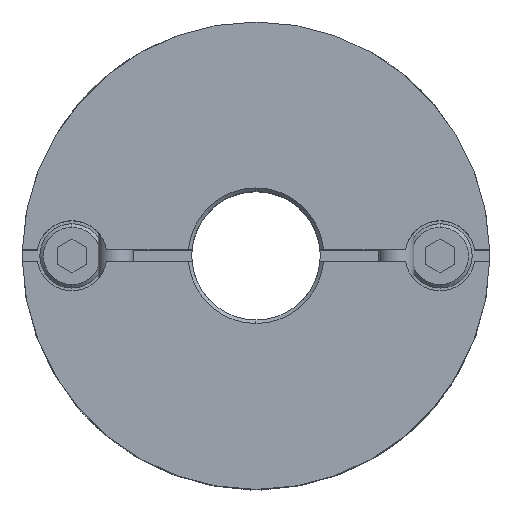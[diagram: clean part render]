
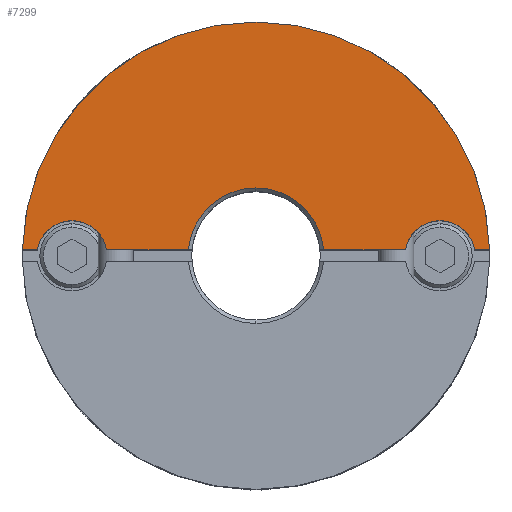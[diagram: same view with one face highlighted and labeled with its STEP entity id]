
A CAD part, top view. The second image highlights one B-rep face of the part: STEP entity #7299.
In plain terms, the highlighted planar face has unit normal (0, 0, 1).
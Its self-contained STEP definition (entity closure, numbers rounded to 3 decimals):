
#605=CARTESIAN_POINT('',(0.,20.0,15.6));
#606=VERTEX_POINT('',#605);
#690=CARTESIAN_POINT('',(-19.994,0.5,15.6));
#691=VERTEX_POINT('',#690);
#698=CARTESIAN_POINT('',(0.,0.0,15.6));
#699=DIRECTION('',(0.0,0.0,-1.0));
#700=DIRECTION('',(0.0,1.0,0.0));
#701=AXIS2_PLACEMENT_3D('',#698,#699,#700);
#702=CIRCLE('',#701,20.0);
#703=EDGE_CURVE('',#691,#606,#702,.T.);
#993=CARTESIAN_POINT('',(0.,5.8,15.6));
#994=VERTEX_POINT('',#993);
#1001=CARTESIAN_POINT('',(-5.778,0.5,15.6));
#1002=VERTEX_POINT('',#1001);
#1003=CARTESIAN_POINT('',(0.,0.,15.6));
#1004=DIRECTION('',(0.0,0.0,1.0));
#1005=DIRECTION('',(0.0,-1.0,0.0));
#1006=AXIS2_PLACEMENT_3D('',#1003,#1004,#1005);
#1007=CIRCLE('',#1006,5.8);
#1008=EDGE_CURVE('',#994,#1002,#1007,.T.);
#1309=CARTESIAN_POINT('',(-15.75,3.,15.6));
#1310=VERTEX_POINT('',#1309);
#1319=CARTESIAN_POINT('',(-18.708,0.5,15.6));
#1320=VERTEX_POINT('',#1319);
#1321=CARTESIAN_POINT('',(-15.75,0.,15.6));
#1322=DIRECTION('',(0.0,0.0,-1.0));
#1323=DIRECTION('',(0.0,1.0,0.0));
#1324=AXIS2_PLACEMENT_3D('',#1321,#1322,#1323);
#1325=CIRCLE('',#1324,3.0);
#1326=EDGE_CURVE('',#1320,#1310,#1325,.T.);
#1579=CARTESIAN_POINT('',(15.75,3.,15.6));
#1580=VERTEX_POINT('',#1579);
#1589=CARTESIAN_POINT('',(12.792,0.5,15.6));
#1590=VERTEX_POINT('',#1589);
#1591=CARTESIAN_POINT('',(15.75,0.,15.6));
#1592=DIRECTION('',(0.0,0.0,-1.0));
#1593=DIRECTION('',(0.0,1.0,0.0));
#1594=AXIS2_PLACEMENT_3D('',#1591,#1592,#1593);
#1595=CIRCLE('',#1594,3.0);
#1596=EDGE_CURVE('',#1590,#1580,#1595,.T.);
#6010=CARTESIAN_POINT('',(18.708,0.5,15.6));
#6011=VERTEX_POINT('',#6010);
#6018=CARTESIAN_POINT('',(15.75,0.,15.6));
#6019=DIRECTION('',(0.0,0.0,-1.0));
#6020=DIRECTION('',(0.0,1.0,0.0));
#6021=AXIS2_PLACEMENT_3D('',#6018,#6019,#6020);
#6022=CIRCLE('',#6021,3.0);
#6023=EDGE_CURVE('',#1580,#6011,#6022,.T.);
#6462=CARTESIAN_POINT('',(-12.792,0.5,15.6));
#6463=VERTEX_POINT('',#6462);
#6470=CARTESIAN_POINT('',(-15.75,0.,15.6));
#6471=DIRECTION('',(0.0,0.0,-1.0));
#6472=DIRECTION('',(0.0,1.0,0.0));
#6473=AXIS2_PLACEMENT_3D('',#6470,#6471,#6472);
#6474=CIRCLE('',#6473,3.0);
#6475=EDGE_CURVE('',#1310,#6463,#6474,.T.);
#6568=CARTESIAN_POINT('',(-12.792,0.5,15.6));
#6569=DIRECTION('',(1.0,0.0,0.0));
#6570=VECTOR('',#6569,7.014);
#6571=LINE('',#6568,#6570);
#6572=EDGE_CURVE('',#6463,#1002,#6571,.T.);
#6635=CARTESIAN_POINT('',(5.778,0.5,15.6));
#6636=VERTEX_POINT('',#6635);
#6637=CARTESIAN_POINT('',(5.778,0.5,15.6));
#6638=DIRECTION('',(1.0,0.0,0.0));
#6639=VECTOR('',#6638,7.014);
#6640=LINE('',#6637,#6639);
#6641=EDGE_CURVE('',#6636,#1590,#6640,.T.);
#7202=CARTESIAN_POINT('',(-19.994,0.5,15.6));
#7203=DIRECTION('',(1.0,0.0,0.0));
#7204=VECTOR('',#7203,1.286);
#7205=LINE('',#7202,#7204);
#7206=EDGE_CURVE('',#691,#1320,#7205,.T.);
#7261=CARTESIAN_POINT('',(0.,1.818,15.6));
#7262=DIRECTION('',(0.0,0.0,1.0));
#7263=DIRECTION('',(0.0,1.0,0.0));
#7264=AXIS2_PLACEMENT_3D('',#7261,#7262,#7263);
#7265=PLANE('',#7264);
#7266=ORIENTED_EDGE('',*,*,#1326,.T.);
#7267=ORIENTED_EDGE('',*,*,#6475,.T.);
#7268=ORIENTED_EDGE('',*,*,#6572,.T.);
#7269=ORIENTED_EDGE('',*,*,#1008,.F.);
#7270=CARTESIAN_POINT('',(0.,0.,15.6));
#7271=DIRECTION('',(0.0,0.0,1.0));
#7272=DIRECTION('',(0.0,-1.0,0.0));
#7273=AXIS2_PLACEMENT_3D('',#7270,#7271,#7272);
#7274=CIRCLE('',#7273,5.8);
#7275=EDGE_CURVE('',#6636,#994,#7274,.T.);
#7276=ORIENTED_EDGE('',*,*,#7275,.F.);
#7277=ORIENTED_EDGE('',*,*,#6641,.T.);
#7278=ORIENTED_EDGE('',*,*,#1596,.T.);
#7279=ORIENTED_EDGE('',*,*,#6023,.T.);
#7280=CARTESIAN_POINT('',(19.994,0.5,15.6));
#7281=VERTEX_POINT('',#7280);
#7282=CARTESIAN_POINT('',(18.708,0.5,15.6));
#7283=DIRECTION('',(1.0,0.0,0.0));
#7284=VECTOR('',#7283,1.286);
#7285=LINE('',#7282,#7284);
#7286=EDGE_CURVE('',#6011,#7281,#7285,.T.);
#7287=ORIENTED_EDGE('',*,*,#7286,.T.);
#7288=CARTESIAN_POINT('',(0.,0.0,15.6));
#7289=DIRECTION('',(0.0,0.0,-1.0));
#7290=DIRECTION('',(0.0,1.0,0.0));
#7291=AXIS2_PLACEMENT_3D('',#7288,#7289,#7290);
#7292=CIRCLE('',#7291,20.0);
#7293=EDGE_CURVE('',#606,#7281,#7292,.T.);
#7294=ORIENTED_EDGE('',*,*,#7293,.F.);
#7295=ORIENTED_EDGE('',*,*,#703,.F.);
#7296=ORIENTED_EDGE('',*,*,#7206,.T.);
#7297=EDGE_LOOP('',(#7266,#7267,#7268,#7269,#7276,#7277,#7278,#7279,#7287,#7294,#7295,#7296));
#7298=FACE_OUTER_BOUND('',#7297,.T.);
#7299=ADVANCED_FACE('',(#7298),#7265,.T.);
